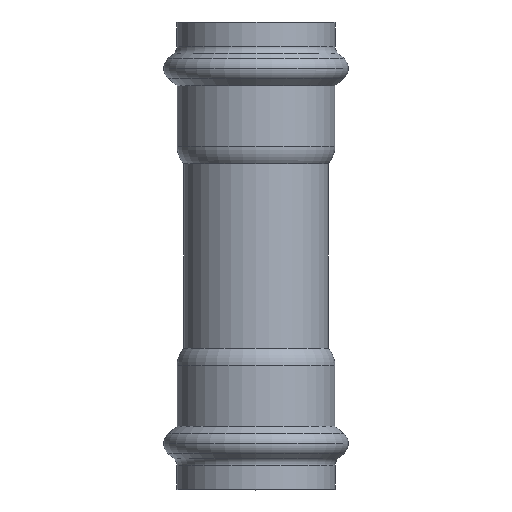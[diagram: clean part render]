
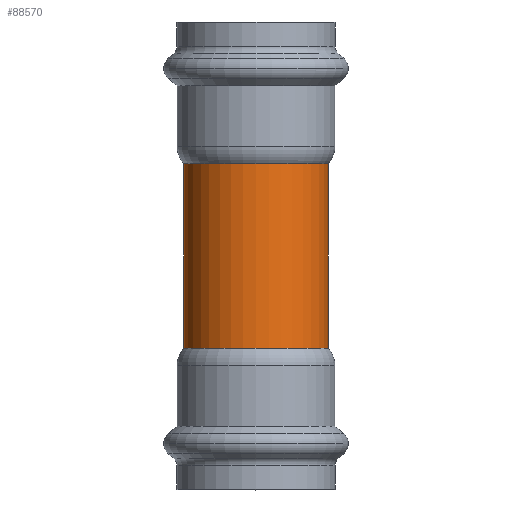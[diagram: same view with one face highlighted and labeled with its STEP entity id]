
A CAD part, top view. The second image highlights one B-rep face of the part: STEP entity #88570.
In plain terms, the highlighted cylindrical face has radius 21 mm (diameter 42 mm), a partial arc.
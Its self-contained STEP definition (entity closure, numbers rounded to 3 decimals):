
#5140=CARTESIAN_POINT('',(52.006,36.962,0.));
#5150=VERTEX_POINT('',#5140);
#5240=CARTESIAN_POINT('',(10.006,36.962,0.));
#5250=VERTEX_POINT('',#5240);
#5280=CARTESIAN_POINT('',(31.006,36.962,0.));
#5290=DIRECTION('',(0.,1.,0.));
#5300=DIRECTION('',(-1.,0.,0.));
#5310=AXIS2_PLACEMENT_3D('',#5280,#5290,#5300);
#5320=CIRCLE('',#5310,21.);
#5380=CARTESIAN_POINT('',(31.006,10.162,0.));
#5390=DIRECTION('',(0.,1.,0.));
#5400=DIRECTION('',(1.,0.,0.));
#5410=AXIS2_PLACEMENT_3D('',#5380,#5390,#5400);
#5420=CYLINDRICAL_SURFACE('',#5410,21.);
#5430=CARTESIAN_POINT('',(52.006,10.162,0.));
#5440=DIRECTION('',(0.,1.,0.));
#5450=VECTOR('',#5440,1.);
#5460=LINE('',#5430,#5450);
#5470=CARTESIAN_POINT('',(52.006,-16.638,0.));
#5480=VERTEX_POINT('',#5470);
#5490=EDGE_CURVE('',#5480,#5150,#5460,.T.);
#5520=CARTESIAN_POINT('',(10.006,10.162,
0.));
#5530=DIRECTION('',(0.,1.,0.));
#5540=VECTOR('',#5530,1.);
#5550=LINE('',#5520,#5540);
#5560=CARTESIAN_POINT('',(10.006,-16.638,0.));
#5570=VERTEX_POINT('',#5560);
#5580=EDGE_CURVE('',#5570,#5250,#5550,.T.);
#5600=CARTESIAN_POINT('',(31.006,-16.638,0.));
#5610=DIRECTION('',(0.,1.,0.));
#5620=DIRECTION('',(-1.,0.,0.));
#5630=AXIS2_PLACEMENT_3D('',#5600,#5610,#5620);
#5640=CIRCLE('',#5630,21.);
#88490=EDGE_CURVE('',#5570,#5480,#5640,.T.);
#88500=ORIENTED_EDGE('',*,*,#88490,.T.);
#88510=ORIENTED_EDGE('',*,*,#5580,.F.);
#88520=EDGE_CURVE('',#5250,#5150,#5320,.T.);
#88530=ORIENTED_EDGE('',*,*,#88520,.F.);
#88540=ORIENTED_EDGE('',*,*,#5490,.T.);
#88550=EDGE_LOOP('',(#88540,#88530,#88510,#88500));
#88560=FACE_OUTER_BOUND('',#88550,.T.);
#88570=ADVANCED_FACE('',(#88560),#5420,.T.);
